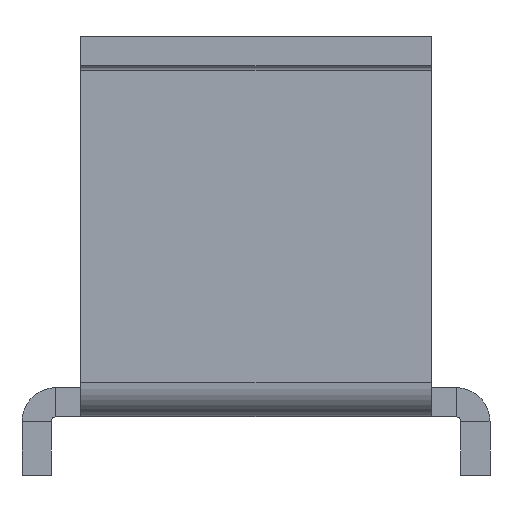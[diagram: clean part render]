
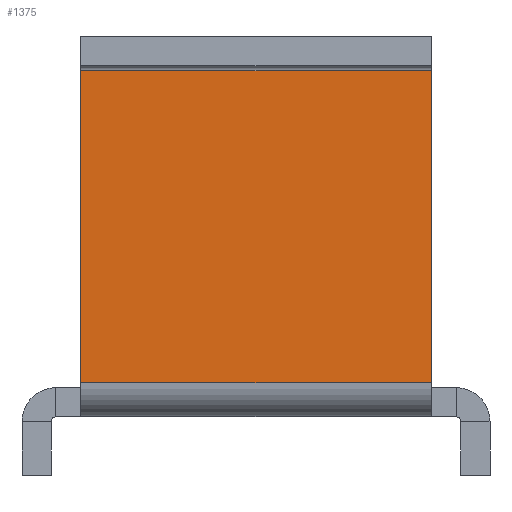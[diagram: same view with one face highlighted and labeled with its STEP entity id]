
A CAD part, left-side view. The second image highlights one B-rep face of the part: STEP entity #1375.
In plain terms, the highlighted planar face has unit normal (-1, 0, 0).
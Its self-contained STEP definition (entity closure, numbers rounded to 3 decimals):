
#72=PLANE('',#1498);
#151=FACE_OUTER_BOUND('',#241,.T.);
#241=EDGE_LOOP('',(#1215,#1216,#1217,#1218));
#385=LINE('',#2254,#533);
#386=LINE('',#2256,#534);
#387=LINE('',#2258,#535);
#388=LINE('',#2259,#536);
#533=VECTOR('',#1859,60.);
#534=VECTOR('',#1860,53.4);
#535=VECTOR('',#1861,60.);
#536=VECTOR('',#1862,53.4);
#697=VERTEX_POINT('',#2248);
#698=VERTEX_POINT('',#2253);
#699=VERTEX_POINT('',#2255);
#700=VERTEX_POINT('',#2257);
#876=EDGE_CURVE('',#698,#697,#385,.T.);
#877=EDGE_CURVE('',#699,#698,#386,.T.);
#878=EDGE_CURVE('',#699,#700,#387,.T.);
#879=EDGE_CURVE('',#697,#700,#388,.T.);
#1215=ORIENTED_EDGE('',*,*,#876,.F.);
#1216=ORIENTED_EDGE('',*,*,#877,.F.);
#1217=ORIENTED_EDGE('',*,*,#878,.T.);
#1218=ORIENTED_EDGE('',*,*,#879,.F.);
#1375=ADVANCED_FACE('',(#151),#72,.F.);
#1498=AXIS2_PLACEMENT_3D('',#2252,#1857,#1858);
#1857=DIRECTION('center_axis',(1.,0.,0.));
#1858=DIRECTION('ref_axis',(0.,0.,-1.));
#1859=DIRECTION('',(0.,1.,0.));
#1860=DIRECTION('',(0.,0.,-1.));
#1861=DIRECTION('',(0.,1.,0.));
#1862=DIRECTION('',(0.,0.,1.));
#2248=CARTESIAN_POINT('',(-90.,30.,-59.2));
#2252=CARTESIAN_POINT('Origin',(-90.,0.,
-146.25));
#2253=CARTESIAN_POINT('',(-90.,-30.,-59.2));
#2254=CARTESIAN_POINT('',(-90.,0.,-59.2));
#2255=CARTESIAN_POINT('',(-90.,-30.,-5.8));
#2256=CARTESIAN_POINT('',(-90.,-30.,-289.55));
#2257=CARTESIAN_POINT('',(-90.,30.,-5.8));
#2258=CARTESIAN_POINT('',(-90.,0.,-5.8));
#2259=CARTESIAN_POINT('',(-90.,30.,28.25));
